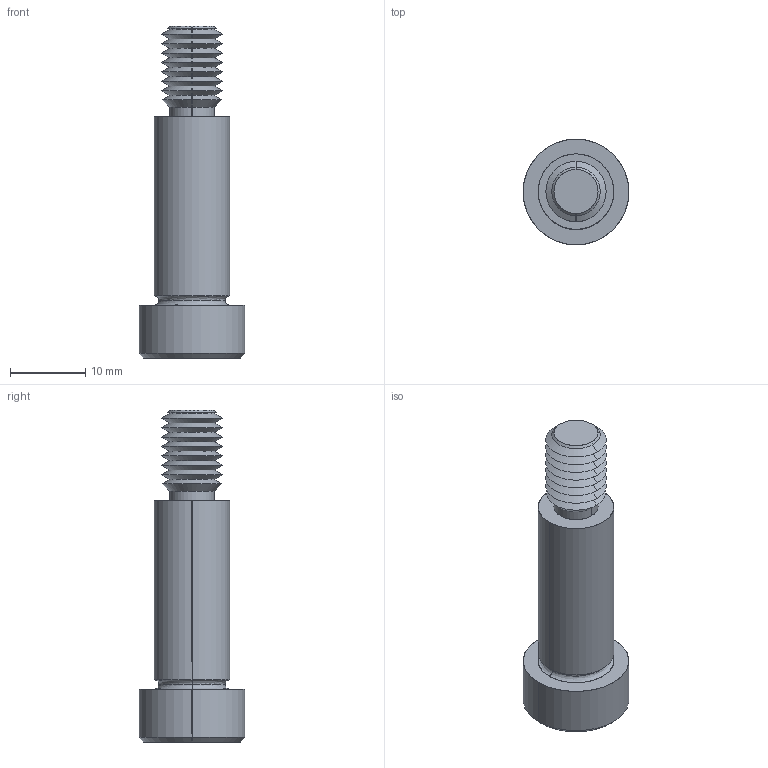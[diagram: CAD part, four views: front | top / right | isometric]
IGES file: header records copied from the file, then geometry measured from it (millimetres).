
Start section: SolidWorks IGES file using analytic representation for surfaces
Global section: file name: C:\Users\IanO\Documents\Temp Folder\GENERAL\SCREW REVISION\P0130_v2\P0130.T5_v2_20220106_IGES\P0130.100-025-T5.igs; native system: SolidWorks 2019; preprocessor: SolidWorks 2019; author: IanO; date: 220106.224231; units: millimetre
Bounding box: 14 x 14 x 44 mm (x, y, z)
Surface area: 1962 mm2 (no closed solid volume)
Topology: 0 solids, 0 shells, 72 faces, 548 edges, 546 vertices
Faces by surface type: revolution 52, bspline 20
